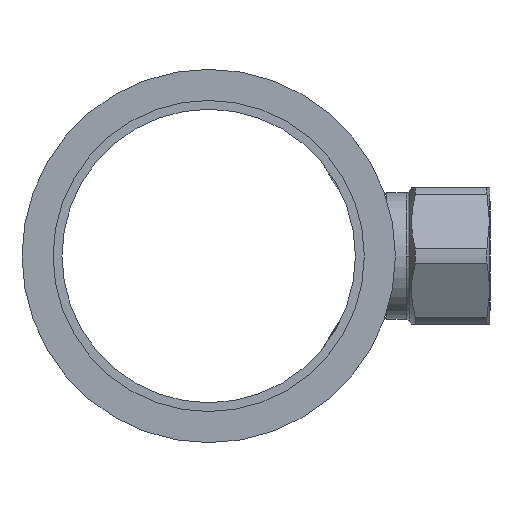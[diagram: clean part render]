
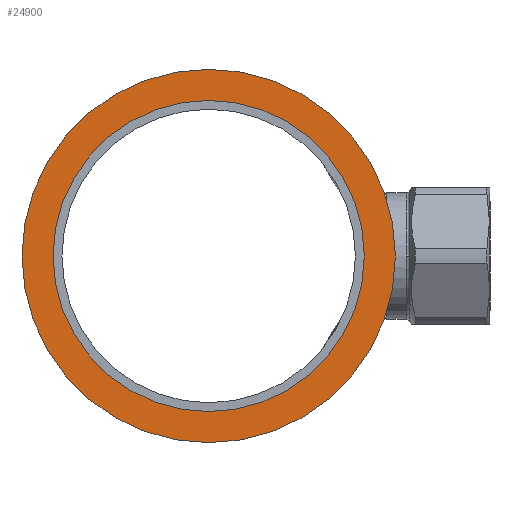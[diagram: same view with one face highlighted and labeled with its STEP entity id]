
A CAD part, left-side view. The second image highlights one B-rep face of the part: STEP entity #24900.
In plain terms, the highlighted planar face has unit normal (-1, 0, 0).
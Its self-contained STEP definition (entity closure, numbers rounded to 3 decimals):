
#24420=CARTESIAN_POINT('',(53.136,49.095,30.75));
#24430=VERTEX_POINT('',#24420);
#24510=CARTESIAN_POINT('',(53.136,49.095,-30.75));
#24520=VERTEX_POINT('',#24510);
#24550=CARTESIAN_POINT('',(53.136,49.095,
0.));
#24560=DIRECTION('',(1.,0.,0.));
#24570=DIRECTION('',(0.,0.,1.));
#24580=AXIS2_PLACEMENT_3D('',#24550,#24560,#24570);
#24590=CIRCLE('',#24580,30.75);
#24600=EDGE_CURVE('',#24520,#24430,#24590,.T.);
#24650=CARTESIAN_POINT('',(53.136,49.095,-35.85));
#24660=DIRECTION('',(1.,0.,0.));
#24670=DIRECTION('',(0.,0.,1.));
#24680=AXIS2_PLACEMENT_3D('',#24650,#24660,#24670);
#24690=PLANE('',#24680);
#24700=EDGE_CURVE('',#24430,#24520,#24590,.T.);
#24710=ORIENTED_EDGE('',*,*,#24700,.T.);
#24720=ORIENTED_EDGE('',*,*,#24600,.T.);
#24730=EDGE_LOOP('',(#24720,#24710));
#24740=FACE_BOUND('',#24730,.T.);
#24750=CARTESIAN_POINT('',(53.136,49.095,
0.));
#24760=DIRECTION('',(1.,0.,0.));
#24770=DIRECTION('',(0.,0.,-1.));
#24780=AXIS2_PLACEMENT_3D('',#24750,#24760,#24770);
#24790=CIRCLE('',#24780,36.9);
#24800=CARTESIAN_POINT('',(53.136,49.095,-36.9));
#24810=VERTEX_POINT('',#24800);
#24820=CARTESIAN_POINT('',(53.136,49.095,36.9));
#24830=VERTEX_POINT('',#24820);
#24840=EDGE_CURVE('',#24810,#24830,#24790,.T.);
#24850=ORIENTED_EDGE('',*,*,#24840,.F.);
#24860=EDGE_CURVE('',#24830,#24810,#24790,.T.);
#24870=ORIENTED_EDGE('',*,*,#24860,.F.);
#24880=EDGE_LOOP('',(#24870,#24850));
#24890=FACE_OUTER_BOUND('',#24880,.T.);
#24900=ADVANCED_FACE('',(#24740,#24890),#24690,.F.);
